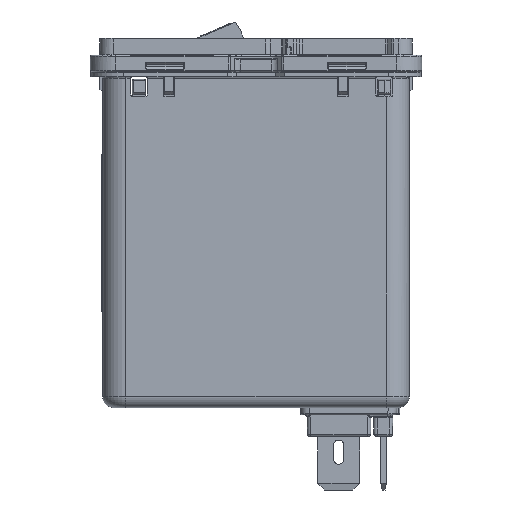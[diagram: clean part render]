
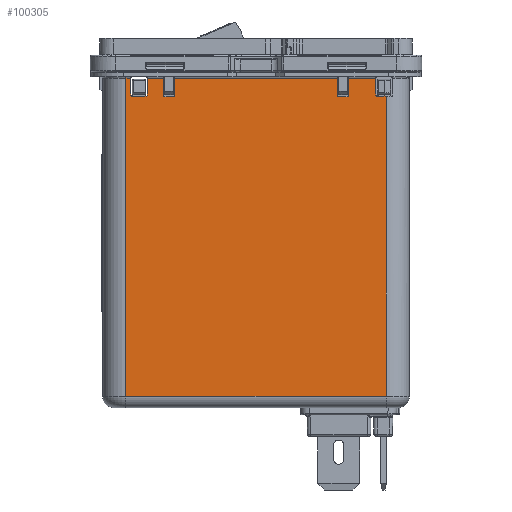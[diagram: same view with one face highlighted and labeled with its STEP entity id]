
A CAD part, left-side view. The second image highlights one B-rep face of the part: STEP entity #100305.
In plain terms, the highlighted planar face has unit normal (-1, 0, 0).
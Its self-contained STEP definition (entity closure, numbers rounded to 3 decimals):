
#4951=CIRCLE('',#105754,0.2);
#4955=CIRCLE('',#105764,0.2);
#4967=CIRCLE('',#105791,0.2);
#5036=CIRCLE('',#105895,0.2);
#5039=CIRCLE('',#105900,0.2);
#5080=CIRCLE('',#105978,0.2);
#5081=CIRCLE('',#105981,0.2);
#7268=FACE_OUTER_BOUND('',#12714,.T.);
#12714=EDGE_LOOP('',(#64027,#64028,#64029,#64030,#64031,#64032,#64033,#64034,
#64035,#64036,#64037,#64038,#64039,#64040,#64041,#64042,#64043,#64044,#64045,
#64046,#64047,#64048,#64049,#64050,#64051));
#18358=LINE('',#141322,#28595);
#18365=LINE('',#141335,#28602);
#18373=LINE('',#141364,#28610);
#18383=LINE('',#141399,#28620);
#18397=LINE('',#141463,#28634);
#18409=LINE('',#141574,#28646);
#18412=LINE('',#141583,#28649);
#18431=LINE('',#141636,#28668);
#18540=LINE('',#141956,#28777);
#18543=LINE('',#141967,#28780);
#18561=LINE('',#142019,#28798);
#18635=LINE('',#142227,#28872);
#18655=LINE('',#142276,#28892);
#18662=LINE('',#142294,#28899);
#18670=LINE('',#142316,#28907);
#18671=LINE('',#142318,#28908);
#18672=LINE('',#142319,#28909);
#18673=LINE('',#142320,#28910);
#28595=VECTOR('',#114597,10.);
#28602=VECTOR('',#114608,10.);
#28610=VECTOR('',#114638,10.);
#28620=VECTOR('',#114672,10.);
#28634=VECTOR('',#114712,10.);
#28646=VECTOR('',#114748,10.);
#28649=VECTOR('',#114757,10.);
#28668=VECTOR('',#114800,10.);
#28777=VECTOR('',#115059,10.);
#28780=VECTOR('',#115070,10.);
#28798=VECTOR('',#115134,10.);
#28872=VECTOR('',#115316,10.);
#28892=VECTOR('',#115380,10.);
#28899=VECTOR('',#115403,10.);
#28907=VECTOR('',#115429,10.);
#28908=VECTOR('',#115430,10.);
#28909=VECTOR('',#115431,10.);
#28910=VECTOR('',#115432,10.);
#38811=VERTEX_POINT('',#141304);
#38812=VERTEX_POINT('',#141306);
#38818=VERTEX_POINT('',#141321);
#38822=VERTEX_POINT('',#141333);
#38826=VERTEX_POINT('',#141345);
#38832=VERTEX_POINT('',#141363);
#38844=VERTEX_POINT('',#141396);
#38845=VERTEX_POINT('',#141398);
#38856=VERTEX_POINT('',#141443);
#38862=VERTEX_POINT('',#141461);
#38877=VERTEX_POINT('',#141573);
#38880=VERTEX_POINT('',#141581);
#38902=VERTEX_POINT('',#141634);
#39033=VERTEX_POINT('',#141941);
#39034=VERTEX_POINT('',#141943);
#39038=VERTEX_POINT('',#141954);
#39039=VERTEX_POINT('',#141958);
#39040=VERTEX_POINT('',#141959);
#39130=VERTEX_POINT('',#142217);
#39131=VERTEX_POINT('',#142219);
#39133=VERTEX_POINT('',#142225);
#39134=VERTEX_POINT('',#142229);
#39140=VERTEX_POINT('',#142275);
#39148=VERTEX_POINT('',#142315);
#39149=VERTEX_POINT('',#142317);
#48229=EDGE_CURVE('',#38812,#38811,#4951,.T.);
#48236=EDGE_CURVE('',#38818,#38812,#18358,.T.);
#48243=EDGE_CURVE('',#38811,#38822,#18365,.T.);
#48248=EDGE_CURVE('',#38826,#38818,#4955,.T.);
#48257=EDGE_CURVE('',#38832,#38826,#18373,.T.);
#48274=EDGE_CURVE('',#38845,#38844,#18383,.T.);
#48288=EDGE_CURVE('',#38844,#38856,#4967,.T.);
#48297=EDGE_CURVE('',#38856,#38862,#18397,.T.);
#48319=EDGE_CURVE('',#38832,#38877,#18409,.T.);
#48324=EDGE_CURVE('',#38880,#38822,#18412,.T.);
#48351=EDGE_CURVE('',#38902,#38862,#18431,.T.);
#48510=EDGE_CURVE('',#39033,#39034,#5036,.T.);
#48517=EDGE_CURVE('',#39033,#39038,#18540,.T.);
#48518=EDGE_CURVE('',#39039,#39040,#5039,.T.);
#48522=EDGE_CURVE('',#38902,#39040,#18543,.T.);
#48549=EDGE_CURVE('',#39039,#39034,#18561,.T.);
#48650=EDGE_CURVE('',#39130,#39131,#5080,.T.);
#48654=EDGE_CURVE('',#39130,#39133,#18635,.T.);
#48655=EDGE_CURVE('',#39134,#39133,#5081,.T.);
#48681=EDGE_CURVE('',#39140,#39131,#18655,.T.);
#48692=EDGE_CURVE('',#39134,#38877,#18662,.T.);
#48704=EDGE_CURVE('',#39148,#38880,#18670,.T.);
#48705=EDGE_CURVE('',#39149,#39148,#18671,.T.);
#48706=EDGE_CURVE('',#38845,#39149,#18672,.T.);
#48707=EDGE_CURVE('',#39140,#39038,#18673,.T.);
#64027=ORIENTED_EDGE('',*,*,#48243,.T.);
#64028=ORIENTED_EDGE('',*,*,#48324,.F.);
#64029=ORIENTED_EDGE('',*,*,#48704,.F.);
#64030=ORIENTED_EDGE('',*,*,#48705,.F.);
#64031=ORIENTED_EDGE('',*,*,#48706,.F.);
#64032=ORIENTED_EDGE('',*,*,#48274,.T.);
#64033=ORIENTED_EDGE('',*,*,#48288,.T.);
#64034=ORIENTED_EDGE('',*,*,#48297,.T.);
#64035=ORIENTED_EDGE('',*,*,#48351,.F.);
#64036=ORIENTED_EDGE('',*,*,#48522,.T.);
#64037=ORIENTED_EDGE('',*,*,#48518,.F.);
#64038=ORIENTED_EDGE('',*,*,#48549,.T.);
#64039=ORIENTED_EDGE('',*,*,#48510,.F.);
#64040=ORIENTED_EDGE('',*,*,#48517,.T.);
#64041=ORIENTED_EDGE('',*,*,#48707,.F.);
#64042=ORIENTED_EDGE('',*,*,#48681,.T.);
#64043=ORIENTED_EDGE('',*,*,#48650,.F.);
#64044=ORIENTED_EDGE('',*,*,#48654,.T.);
#64045=ORIENTED_EDGE('',*,*,#48655,.F.);
#64046=ORIENTED_EDGE('',*,*,#48692,.T.);
#64047=ORIENTED_EDGE('',*,*,#48319,.F.);
#64048=ORIENTED_EDGE('',*,*,#48257,.T.);
#64049=ORIENTED_EDGE('',*,*,#48248,.T.);
#64050=ORIENTED_EDGE('',*,*,#48236,.T.);
#64051=ORIENTED_EDGE('',*,*,#48229,.T.);
#91727=PLANE('',#106018);
#100305=ADVANCED_FACE('',(#7268),#91727,.T.);
#105754=AXIS2_PLACEMENT_3D('',#141307,#114583,#114584);
#105764=AXIS2_PLACEMENT_3D('',#141346,#114618,#114619);
#105791=AXIS2_PLACEMENT_3D('',#141445,#114694,#114695);
#105895=AXIS2_PLACEMENT_3D('',#141944,#115047,#115048);
#105900=AXIS2_PLACEMENT_3D('',#141960,#115062,#115063);
#105978=AXIS2_PLACEMENT_3D('',#142220,#115309,#115310);
#105981=AXIS2_PLACEMENT_3D('',#142230,#115319,#115320);
#106018=AXIS2_PLACEMENT_3D('',#142314,#115427,#115428);
#114583=DIRECTION('center_axis',(1.,0.,0.));
#114584=DIRECTION('ref_axis',(0.,0.,-1.));
#114597=DIRECTION('',(0.,1.,0.));
#114608=DIRECTION('',(0.,0.,1.));
#114618=DIRECTION('center_axis',(1.,0.,0.));
#114619=DIRECTION('ref_axis',(0.,-1.,0.));
#114638=DIRECTION('',(0.,0.,-1.));
#114672=DIRECTION('',(0.,1.,0.));
#114694=DIRECTION('center_axis',(1.,0.,0.));
#114695=DIRECTION('ref_axis',(0.,0.,-1.));
#114712=DIRECTION('',(0.,0.,1.));
#114748=DIRECTION('',(0.,-1.,0.));
#114757=DIRECTION('',(0.,-1.,0.));
#114800=DIRECTION('',(0.,-1.,0.));
#115047=DIRECTION('center_axis',(-1.,0.,0.));
#115048=DIRECTION('ref_axis',(0.,0.707,-0.707));
#115059=DIRECTION('',(0.,0.,1.));
#115062=DIRECTION('center_axis',(-1.,0.,0.));
#115063=DIRECTION('ref_axis',(0.,-0.707,-0.707));
#115070=DIRECTION('',(0.,0.,-1.));
#115134=DIRECTION('',(0.,1.,0.));
#115309=DIRECTION('center_axis',(-1.,0.,0.));
#115310=DIRECTION('ref_axis',(0.,-0.707,-0.707));
#115316=DIRECTION('',(0.,1.,0.));
#115319=DIRECTION('center_axis',(-1.,0.,0.));
#115320=DIRECTION('ref_axis',(0.,0.707,-0.707));
#115380=DIRECTION('',(0.,0.,-1.));
#115403=DIRECTION('',(0.,0.,1.));
#115427=DIRECTION('center_axis',(-1.,0.,0.));
#115428=DIRECTION('ref_axis',(0.,-1.,0.));
#115429=DIRECTION('',(0.,0.,1.));
#115430=DIRECTION('',(0.,1.,0.));
#115431=DIRECTION('',(0.,0.,-1.));
#115432=DIRECTION('',(0.,-1.,0.));
#141304=CARTESIAN_POINT('',(-14.2,18.85,22.15));
#141306=CARTESIAN_POINT('',(-14.2,18.65,21.95));
#141307=CARTESIAN_POINT('Origin',(-14.2,18.65,22.15));
#141321=CARTESIAN_POINT('',(-14.2,16.55,21.95));
#141322=CARTESIAN_POINT('',(-14.2,19.825,21.95));
#141333=CARTESIAN_POINT('',(-14.2,18.85,24.7));
#141335=CARTESIAN_POINT('',(-14.2,18.85,11.075));
#141345=CARTESIAN_POINT('',(-14.2,16.35,22.15));
#141346=CARTESIAN_POINT('Origin',(-14.2,16.55,22.15));
#141363=CARTESIAN_POINT('',(-14.2,16.35,24.7));
#141364=CARTESIAN_POINT('',(-14.2,16.35,12.35));
#141396=CARTESIAN_POINT('',(-14.2,-18.25,21.95));
#141398=CARTESIAN_POINT('',(-14.2,-19.6,21.95));
#141399=CARTESIAN_POINT('',(-14.2,1.375,21.95));
#141443=CARTESIAN_POINT('',(-14.2,-18.05,22.15));
#141445=CARTESIAN_POINT('Origin',(-14.2,-18.25,22.15));
#141461=CARTESIAN_POINT('',(-14.2,-18.05,24.7));
#141463=CARTESIAN_POINT('',(-14.2,-18.05,11.075));
#141573=CARTESIAN_POINT('',(-14.2,13.9,24.7));
#141574=CARTESIAN_POINT('',(-14.2,11.55,24.7));
#141581=CARTESIAN_POINT('',(-14.2,19.6,24.7));
#141583=CARTESIAN_POINT('',(-14.2,11.55,24.7));
#141634=CARTESIAN_POINT('',(-14.2,-13.9,24.7));
#141636=CARTESIAN_POINT('',(-14.2,11.55,24.7));
#141941=CARTESIAN_POINT('',(-14.2,-12.3,22.1));
#141943=CARTESIAN_POINT('',(-14.2,-12.5,21.9));
#141944=CARTESIAN_POINT('Origin',(-14.2,-12.5,22.1));
#141954=CARTESIAN_POINT('',(-14.2,-12.3,24.7));
#141956=CARTESIAN_POINT('',(-14.2,-12.3,12.8));
#141958=CARTESIAN_POINT('',(-14.2,-13.7,21.9));
#141959=CARTESIAN_POINT('',(-14.2,-13.9,22.1));
#141960=CARTESIAN_POINT('Origin',(-14.2,-13.7,22.1));
#141967=CARTESIAN_POINT('',(-14.2,-13.9,12.8));
#142019=CARTESIAN_POINT('',(-14.2,5.,21.9));
#142217=CARTESIAN_POINT('',(-14.2,12.5,21.9));
#142219=CARTESIAN_POINT('',(-14.2,12.3,22.1));
#142220=CARTESIAN_POINT('Origin',(-14.2,12.5,22.1));
#142225=CARTESIAN_POINT('',(-14.2,13.7,21.9));
#142227=CARTESIAN_POINT('',(-14.2,18.1,21.9));
#142229=CARTESIAN_POINT('',(-14.2,13.9,22.1));
#142230=CARTESIAN_POINT('Origin',(-14.2,13.7,22.1));
#142275=CARTESIAN_POINT('',(-14.2,12.3,24.7));
#142276=CARTESIAN_POINT('',(-14.2,12.3,12.8));
#142294=CARTESIAN_POINT('',(-14.2,13.9,12.8));
#142314=CARTESIAN_POINT('Origin',(-14.2,23.1,0.));
#142315=CARTESIAN_POINT('',(-14.2,19.6,-23.2));
#142316=CARTESIAN_POINT('',(-14.2,19.6,0.));
#142317=CARTESIAN_POINT('',(-14.2,-19.6,-23.2));
#142318=CARTESIAN_POINT('',(-14.2,11.55,-23.2));
#142319=CARTESIAN_POINT('',(-14.2,-19.6,0.));
#142320=CARTESIAN_POINT('',(-14.2,11.55,24.7));
